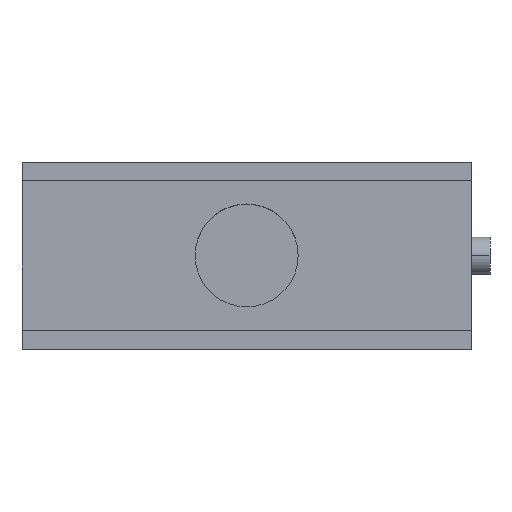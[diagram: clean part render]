
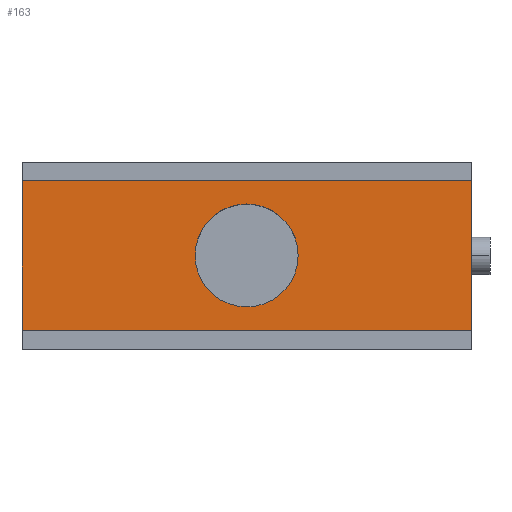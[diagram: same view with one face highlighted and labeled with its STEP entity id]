
A CAD part, top view. The second image highlights one B-rep face of the part: STEP entity #163.
In plain terms, the highlighted planar face has unit normal (0, 0, 1).
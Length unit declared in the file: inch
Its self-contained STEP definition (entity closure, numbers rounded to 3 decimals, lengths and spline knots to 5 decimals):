
#5 = ORIENTED_EDGE ( 'NONE', *, *, #195, .F. ) ;
#14 = ORIENTED_EDGE ( 'NONE', *, *, #206, .T. ) ;
#144 = VERTEX_POINT ( 'NONE', #520 ) ;
#146 = EDGE_CURVE ( 'NONE', #192, #198, #459, .T. ) ;
#158 = ORIENTED_EDGE ( 'NONE', *, *, #146, .F. ) ;
#161 = EDGE_CURVE ( 'NONE', #228, #227, #490, .T. ) ;
#162 = ORIENTED_EDGE ( 'NONE', *, *, #161, .F. ) ;
#163 = ADVANCED_FACE ( 'NONE', ( #491, #473 ), #472, .F. ) ;
#164 = EDGE_LOOP ( 'NONE', ( #162, #5 ) ) ;
#192 = VERTEX_POINT ( 'NONE', #614 ) ;
#195 = EDGE_CURVE ( 'NONE', #227, #228, #651, .T. ) ;
#198 = VERTEX_POINT ( 'NONE', #720 ) ;
#202 = VERTEX_POINT ( 'NONE', #706 ) ;
#206 = EDGE_CURVE ( 'NONE', #202, #198, #716, .T. ) ;
#209 = EDGE_CURVE ( 'NONE', #144, #192, #689, .T. ) ;
#210 = ORIENTED_EDGE ( 'NONE', *, *, #212, .T. ) ;
#212 = EDGE_CURVE ( 'NONE', #144, #202, #694, .T. ) ;
#213 = ORIENTED_EDGE ( 'NONE', *, *, #209, .F. ) ;
#214 = EDGE_LOOP ( 'NONE', ( #14, #158, #213, #210 ) ) ;
#227 = VERTEX_POINT ( 'NONE', #622 ) ;
#228 = VERTEX_POINT ( 'NONE', #621 ) ;
#457 = VECTOR ( 'NONE', #487, 39.37008 ) ;
#458 = CARTESIAN_POINT ( 'NONE',  ( 3., 1., 4.25 ) ) ;
#459 = LINE ( 'NONE', #458, #457 ) ;
#472 = PLANE ( 'NONE',  #570 ) ;
#473 = FACE_BOUND ( 'NONE', #164, .T. ) ;
#474 = DIRECTION ( 'NONE',  ( 1., 0., 0. ) ) ;
#475 = DIRECTION ( 'NONE',  ( 0., 0., 1. ) ) ;
#487 = DIRECTION ( 'NONE',  ( 0., -1., 0. ) ) ;
#488 = CARTESIAN_POINT ( 'NONE',  ( 1.5, 0.5, 4.25 ) ) ;
#489 = AXIS2_PLACEMENT_3D ( 'NONE', #488, #475, #474 ) ;
#490 = CIRCLE ( 'NONE', #489, 0.34375 ) ;
#491 = FACE_OUTER_BOUND ( 'NONE', #214, .T. ) ;
#520 = CARTESIAN_POINT ( 'NONE',  ( 0., 1., 4.25 ) ) ;
#526 = DIRECTION ( 'NONE',  ( -1., 0., 0. ) ) ;
#568 = DIRECTION ( 'NONE',  ( 0., 0., -1. ) ) ;
#569 = CARTESIAN_POINT ( 'NONE',  ( -2.5519, 1., 4.25 ) ) ;
#570 = AXIS2_PLACEMENT_3D ( 'NONE', #569, #568, #526 ) ;
#602 = VECTOR ( 'NONE', #630, 39.37008 ) ;
#609 = DIRECTION ( 'NONE',  ( 0., -1., 0. ) ) ;
#614 = CARTESIAN_POINT ( 'NONE',  ( 3., 1., 4.25 ) ) ;
#621 = CARTESIAN_POINT ( 'NONE',  ( 1.84375, 0.5, 4.25 ) ) ;
#622 = CARTESIAN_POINT ( 'NONE',  ( 1.15625, 0.5, 4.25 ) ) ;
#630 = DIRECTION ( 'NONE',  ( 1., 0., 0. ) ) ;
#642 = VECTOR ( 'NONE', #609, 39.37008 ) ;
#650 = DIRECTION ( 'NONE',  ( 1., 0., 0. ) ) ;
#651 = CIRCLE ( 'NONE', #664, 0.34375 ) ;
#664 = AXIS2_PLACEMENT_3D ( 'NONE', #671, #670, #701 ) ;
#670 = DIRECTION ( 'NONE',  ( 0., 0., 1. ) ) ;
#671 = CARTESIAN_POINT ( 'NONE',  ( 1.5, 0.5, 4.25 ) ) ;
#688 = CARTESIAN_POINT ( 'NONE',  ( -2.5519, 1., 4.25 ) ) ;
#689 = LINE ( 'NONE', #688, #602 ) ;
#693 = CARTESIAN_POINT ( 'NONE',  ( 0., 1., 4.25 ) ) ;
#694 = LINE ( 'NONE', #693, #642 ) ;
#695 = VECTOR ( 'NONE', #650, 39.37008 ) ;
#701 = DIRECTION ( 'NONE',  ( 1., 0., 0. ) ) ;
#706 = CARTESIAN_POINT ( 'NONE',  ( 0., 0., 4.25 ) ) ;
#715 = CARTESIAN_POINT ( 'NONE',  ( -2.5519, 0., 4.25 ) ) ;
#716 = LINE ( 'NONE', #715, #695 ) ;
#720 = CARTESIAN_POINT ( 'NONE',  ( 3., 0., 4.25 ) ) ;
